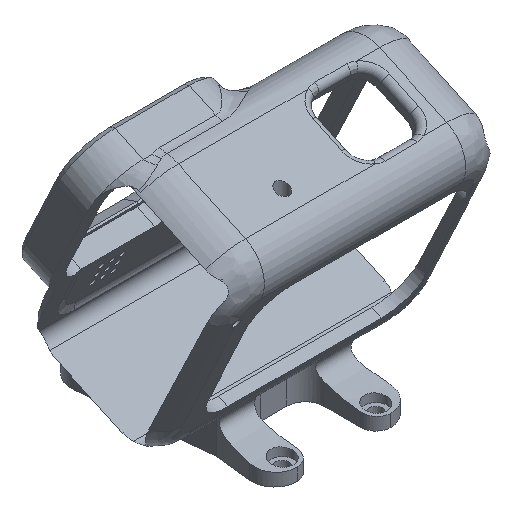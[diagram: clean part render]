
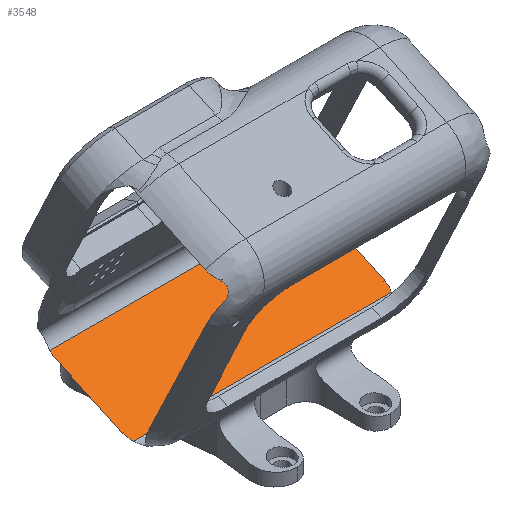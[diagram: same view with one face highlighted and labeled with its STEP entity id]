
A CAD part, isometric view. The second image highlights one B-rep face of the part: STEP entity #3548.
In plain terms, the highlighted planar face has unit normal (0, -0.423, 0.906).
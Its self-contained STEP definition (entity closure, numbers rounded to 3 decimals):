
#164=PLANE('',#3904);
#254=B_SPLINE_CURVE_WITH_KNOTS('',3,(#6929,#6930,#6931,#6932,#6933,#6934),
 .UNSPECIFIED.,.F.,.F.,(4,2,4),(3.005,3.153,3.242),
 .UNSPECIFIED.);
#271=B_SPLINE_CURVE_WITH_KNOTS('',3,(#7329,#7330,#7331,#7332,#7333,#7334),
 .UNSPECIFIED.,.F.,.F.,(4,2,4),(0.85,0.854,1.002),
 .UNSPECIFIED.);
#272=B_SPLINE_CURVE_WITH_KNOTS('',3,(#7336,#7337,#7338,#7339,#7340,#7341),
 .UNSPECIFIED.,.F.,.F.,(4,2,4),(3.005,3.153,3.156),
 .UNSPECIFIED.);
#273=B_SPLINE_CURVE_WITH_KNOTS('',3,(#7345,#7346,#7347,#7348,#7349,#7350),
 .UNSPECIFIED.,.F.,.F.,(4,2,4),(0.764,0.854,1.002),
 .UNSPECIFIED.);
#516=LINE('',#7326,#760);
#517=LINE('',#7343,#761);
#518=LINE('',#7351,#762);
#519=LINE('',#7352,#763);
#760=VECTOR('',#4799,10.);
#761=VECTOR('',#4802,10.);
#762=VECTOR('',#4803,10.);
#763=VECTOR('',#4804,10.);
#1016=FACE_OUTER_BOUND('',#1238,.T.);
#1238=EDGE_LOOP('',(#3198,#3199,#3200,#3201,#3202,#3203,#3204,#3205));
#1726=VERTEX_POINT('',#6926);
#1727=VERTEX_POINT('',#6928);
#1765=VERTEX_POINT('',#7292);
#1766=VERTEX_POINT('',#7309);
#1767=VERTEX_POINT('',#7328);
#1768=VERTEX_POINT('',#7335);
#1769=VERTEX_POINT('',#7342);
#1770=VERTEX_POINT('',#7344);
#2215=EDGE_CURVE('',#1726,#1727,#254,.T.);
#2276=EDGE_CURVE('',#1766,#1765,#516,.T.);
#2277=EDGE_CURVE('',#1765,#1767,#271,.T.);
#2278=EDGE_CURVE('',#1768,#1766,#272,.T.);
#2279=EDGE_CURVE('',#1769,#1768,#517,.T.);
#2280=EDGE_CURVE('',#1770,#1769,#273,.T.);
#2281=EDGE_CURVE('',#1770,#1727,#518,.T.);
#2282=EDGE_CURVE('',#1767,#1726,#519,.T.);
#3198=ORIENTED_EDGE('',*,*,#2277,.F.);
#3199=ORIENTED_EDGE('',*,*,#2276,.F.);
#3200=ORIENTED_EDGE('',*,*,#2278,.F.);
#3201=ORIENTED_EDGE('',*,*,#2279,.F.);
#3202=ORIENTED_EDGE('',*,*,#2280,.F.);
#3203=ORIENTED_EDGE('',*,*,#2281,.T.);
#3204=ORIENTED_EDGE('',*,*,#2215,.F.);
#3205=ORIENTED_EDGE('',*,*,#2282,.F.);
#3548=ADVANCED_FACE('',(#1016),#164,.F.);
#3904=AXIS2_PLACEMENT_3D('',#7327,#4800,#4801);
#4799=DIRECTION('',(1.,0.,0.));
#4800=DIRECTION('center_axis',(0.,0.423,-0.906));
#4801=DIRECTION('ref_axis',(0.,0.906,0.423));
#4802=DIRECTION('',(0.,0.906,0.423));
#4803=DIRECTION('',(1.,0.,0.));
#4804=DIRECTION('',(0.,-0.906,-0.423));
#6926=CARTESIAN_POINT('',(23.506,47.404,42.754));
#6928=CARTESIAN_POINT('',(22.89,45.209,41.731));
#6929=CARTESIAN_POINT('Ctrl Pts',(23.506,47.404,42.754));
#6930=CARTESIAN_POINT('Ctrl Pts',(23.506,46.957,42.546));
#6931=CARTESIAN_POINT('Ctrl Pts',(23.413,46.427,42.299));
#6932=CARTESIAN_POINT('Ctrl Pts',(23.171,45.744,41.98));
#6933=CARTESIAN_POINT('Ctrl Pts',(23.044,45.469,41.852));
#6934=CARTESIAN_POINT('Ctrl Pts',(22.89,45.209,41.731));
#7292=CARTESIAN_POINT('',(23.252,65.149,51.029));
#7309=CARTESIAN_POINT('',(-40.25,65.149,51.029));
#7326=CARTESIAN_POINT('',(-44.999,65.149,51.029));
#7327=CARTESIAN_POINT('Origin',(-44.999,45.209,41.731));
#7328=CARTESIAN_POINT('',(23.506,63.718,50.362));
#7329=CARTESIAN_POINT('Ctrl Pts',(23.252,65.149,51.029));
#7330=CARTESIAN_POINT('Ctrl Pts',(23.255,65.139,51.025));
#7331=CARTESIAN_POINT('Ctrl Pts',(23.259,65.13,51.02));
#7332=CARTESIAN_POINT('Ctrl Pts',(23.413,64.695,50.817));
#7333=CARTESIAN_POINT('Ctrl Pts',(23.506,64.165,50.57));
#7334=CARTESIAN_POINT('Ctrl Pts',(23.506,63.718,50.362));
#7335=CARTESIAN_POINT('',(-40.504,63.718,50.362));
#7336=CARTESIAN_POINT('Ctrl Pts',(-40.504,63.718,50.362));
#7337=CARTESIAN_POINT('Ctrl Pts',(-40.504,64.165,50.57));
#7338=CARTESIAN_POINT('Ctrl Pts',(-40.411,64.695,50.817));
#7339=CARTESIAN_POINT('Ctrl Pts',(-40.257,65.13,51.02));
#7340=CARTESIAN_POINT('Ctrl Pts',(-40.253,65.139,51.025));
#7341=CARTESIAN_POINT('Ctrl Pts',(-40.25,65.149,51.029));
#7342=CARTESIAN_POINT('',(-40.504,47.404,42.754));
#7343=CARTESIAN_POINT('',(-40.504,54.929,46.263));
#7344=CARTESIAN_POINT('',(-39.888,45.209,41.731));
#7345=CARTESIAN_POINT('Ctrl Pts',(-39.888,45.209,41.731));
#7346=CARTESIAN_POINT('Ctrl Pts',(-40.042,45.469,41.852));
#7347=CARTESIAN_POINT('Ctrl Pts',(-40.169,45.744,41.98));
#7348=CARTESIAN_POINT('Ctrl Pts',(-40.411,46.427,42.299));
#7349=CARTESIAN_POINT('Ctrl Pts',(-40.504,46.957,42.546));
#7350=CARTESIAN_POINT('Ctrl Pts',(-40.504,47.404,42.754));
#7351=CARTESIAN_POINT('',(-44.999,45.209,41.731));
#7352=CARTESIAN_POINT('',(23.506,54.929,46.263));
